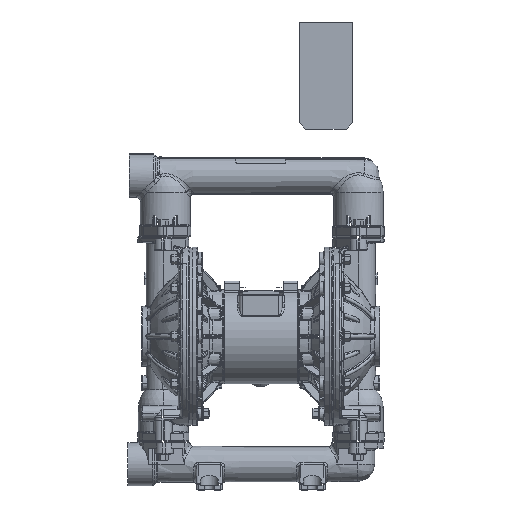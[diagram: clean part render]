
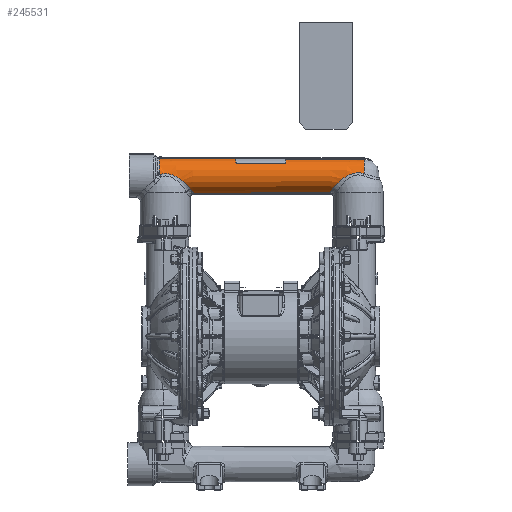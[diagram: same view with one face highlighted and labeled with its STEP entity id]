
A CAD part, top view. The second image highlights one B-rep face of the part: STEP entity #245531.
In plain terms, the highlighted conical face has half-angle 0.267 degrees and reference radius 25.956 mm.
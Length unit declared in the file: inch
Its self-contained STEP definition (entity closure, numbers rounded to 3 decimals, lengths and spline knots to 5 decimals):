
#239250=CARTESIAN_POINT('',(-5.92856,10.37124,
0.28176));
#239252=CARTESIAN_POINT('',(-5.92856,9.52805,
1.03622));
#239290=CARTESIAN_POINT('',(-5.92856,10.37124,
0.28176));
#239291=CARTESIAN_POINT('',(-4.60046,10.36483,
0.2817));
#239292=CARTESIAN_POINT('',(-1.94389,10.352,
0.28158));
#239293=CARTESIAN_POINT('',(2.04197,10.33272,
0.28139));
#239294=CARTESIAN_POINT('',(4.6999,10.31985,
0.28125));
#239295=CARTESIAN_POINT('',(6.02903,10.31341,
0.28118));
#239297=CARTESIAN_POINT('',(6.02903,9.36,0.));
#239298=DIRECTION('',(1.,0.,0.));
#239299=DIRECTION('',(0.,0.959,0.283));
#239300=AXIS2_PLACEMENT_3D('',#239297,#239298,#239299);
#239302=CARTESIAN_POINT('',(-5.87711,9.44721,
1.04589));
#239303=CARTESIAN_POINT('',(-5.87989,9.4502,
1.04566));
#239304=CARTESIAN_POINT('',(-5.88552,9.45617,
1.04516));
#239305=CARTESIAN_POINT('',(-5.89434,9.46518,
1.04433));
#239306=CARTESIAN_POINT('',(-5.90302,9.47451,
1.04339));
#239307=CARTESIAN_POINT('',(-5.91114,9.48417,
1.04232));
#239308=CARTESIAN_POINT('',(-5.91825,9.49428,
1.04111));
#239309=CARTESIAN_POINT('',(-5.92389,9.50489,
1.03971));
#239310=CARTESIAN_POINT('',(-5.92763,9.51607,
1.03811));
#239311=CARTESIAN_POINT('',(-5.92856,9.52399,
1.03688));
#239312=CARTESIAN_POINT('',(-5.92856,9.52805,
1.03622));
#239314=CARTESIAN_POINT('',(-5.92856,9.36,0.));
#239315=DIRECTION('',(-1.,0.,0.));
#239316=DIRECTION('',(0.,0.16,0.987));
#239317=AXIS2_PLACEMENT_3D('',#239314,#239315,#239316);
#239847=CARTESIAN_POINT('',(4.19765,8.59961,
0.65339));
#239848=CARTESIAN_POINT('',(4.17641,8.57281,
0.62235));
#239849=CARTESIAN_POINT('',(4.13707,8.5248,
0.55905));
#239850=CARTESIAN_POINT('',(4.08873,8.4682,
0.46331));
#239851=CARTESIAN_POINT('',(4.05071,8.42494,
0.36827));
#239852=CARTESIAN_POINT('',(4.03153,8.40352,
0.30475));
#239853=CARTESIAN_POINT('',(4.02348,8.39459,
0.27334));
#239872=CARTESIAN_POINT('',(6.02903,9.49634,
0.98462));
#239873=CARTESIAN_POINT('',(5.97292,9.51212,
0.9827));
#239874=CARTESIAN_POINT('',(5.86068,9.53578,
0.97923));
#239875=CARTESIAN_POINT('',(5.69222,9.54742,
0.97777));
#239876=CARTESIAN_POINT('',(5.52324,9.53504,
0.98096));
#239877=CARTESIAN_POINT('',(5.35605,9.49919,
0.98777));
#239878=CARTESIAN_POINT('',(5.18486,9.43848,
0.99578));
#239879=CARTESIAN_POINT('',(5.00308,9.34715,
1.00065));
#239880=CARTESIAN_POINT('',(4.81331,9.22163,
0.99339));
#239881=CARTESIAN_POINT('',(4.6257,9.06725,
0.96203));
#239882=CARTESIAN_POINT('',(4.44874,8.8936,
0.89314));
#239883=CARTESIAN_POINT('',(4.3037,8.73094,
0.78782));
#239884=CARTESIAN_POINT('',(4.22983,8.64022,
0.70041));
#239885=CARTESIAN_POINT('',(4.19765,8.59961,
0.65339));
#239924=CARTESIAN_POINT('',(6.02903,9.49634,
0.98462));
#242031=CARTESIAN_POINT('',(4.02348,8.39459,
0.27334));
#242032=CARTESIAN_POINT('',(3.14228,8.39032,
0.27337));
#242033=CARTESIAN_POINT('',(1.38003,8.3818,
0.27342));
#242034=CARTESIAN_POINT('',(-1.26293,8.36904,
0.2735));
#242035=CARTESIAN_POINT('',(-3.02461,8.36054,
0.27356));
#242036=CARTESIAN_POINT('',(-3.90537,8.35629,
0.27358));
#242238=CARTESIAN_POINT('',(-3.90537,8.35629,
0.27358));
#242239=CARTESIAN_POINT('',(-3.91457,8.36617,
0.30999));
#242240=CARTESIAN_POINT('',(-3.93699,8.39036,
0.3835));
#242241=CARTESIAN_POINT('',(-3.98302,8.44106,
0.49367));
#242242=CARTESIAN_POINT('',(-4.04161,8.50757,
0.60217));
#242243=CARTESIAN_POINT('',(-4.0884,8.56312,
0.67165));
#242244=CARTESIAN_POINT('',(-4.11341,8.59392,
0.70528));
#242246=CARTESIAN_POINT('',(-3.90537,8.35629,
0.27358));
#242555=CARTESIAN_POINT('',(-4.11341,8.59392,
0.70528));
#242556=CARTESIAN_POINT('',(-4.15051,8.63965,
0.75521));
#242557=CARTESIAN_POINT('',(-4.23295,8.73767,
0.84289));
#242558=CARTESIAN_POINT('',(-4.38135,8.89712,
0.93985));
#242559=CARTESIAN_POINT('',(-4.54974,9.05508,
1.00201));
#242560=CARTESIAN_POINT('',(-4.73302,9.19948,
1.03472));
#242561=CARTESIAN_POINT('',(-4.92629,9.32062,
1.04615));
#242562=CARTESIAN_POINT('',(-5.12482,9.41178,
1.04559));
#242563=CARTESIAN_POINT('',(-5.32298,9.46905,
1.04147));
#242564=CARTESIAN_POINT('',(-5.51506,9.49242,
1.03941));
#242565=CARTESIAN_POINT('',(-5.69836,9.4856,
1.04119));
#242566=CARTESIAN_POINT('',(-5.81807,9.46287,
1.04431));
#242567=CARTESIAN_POINT('',(-5.87711,9.44721,
1.04589));
#244661=VERTEX_POINT('',#242555);
#244662=VERTEX_POINT('',#242567);
#244681=VERTEX_POINT('',#239252);
#244692=VERTEX_POINT('',#239924);
#244694=VERTEX_POINT('',#239885);
#244721=VERTEX_POINT('',#242246);
#244723=VERTEX_POINT('',#242031);
#245233=VERTEX_POINT('',#239250);
#245234=VERTEX_POINT('',#239295);
#245507=CARTESIAN_POINT('',(0.05023,9.36,0.));
#245508=DIRECTION('',(-1.,0.,0.));
#245509=DIRECTION('',(0.,-1.,0.));
#245510=AXIS2_PLACEMENT_3D('',#245507,#245508,#245509);
#245511=CONICAL_SURFACE('',#245510,1.02189,0.267);
#245513=ORIENTED_EDGE('',*,*,#245512,.T.);
#245515=ORIENTED_EDGE('',*,*,#245514,.T.);
#245517=ORIENTED_EDGE('',*,*,#245516,.T.);
#245519=ORIENTED_EDGE('',*,*,#245518,.T.);
#245521=ORIENTED_EDGE('',*,*,#245520,.T.);
#245523=ORIENTED_EDGE('',*,*,#245522,.T.);
#245525=ORIENTED_EDGE('',*,*,#245524,.T.);
#245527=ORIENTED_EDGE('',*,*,#245526,.T.);
#245528=ORIENTED_EDGE('',*,*,#245484,.T.);
#245529=EDGE_LOOP('',(#245513,#245515,#245517,#245519,#245521,#245523,#245525,
#245527,#245528));
#245530=FACE_OUTER_BOUND('',#245529,.F.);
#245531=ADVANCED_FACE('',(#245530),#245511,.T.);
#239296=B_SPLINE_CURVE_WITH_KNOTS('',3,(#239290,#239291,#239292,#239293,#239294,
#239295),.UNSPECIFIED.,.F.,.F.,(4,1,1,4),(0.,0.33333,
0.66667,1.),.UNSPECIFIED.);
#239301=CIRCLE('',#239300,0.99401);
#239313=B_SPLINE_CURVE_WITH_KNOTS('',3,(#239302,#239303,#239304,#239305,#239306,
#239307,#239308,#239309,#239310,#239311,#239312),.UNSPECIFIED.,.F.,.F.,(4,1,1,1,
1,1,1,1,4),(0.,0.125,0.25,0.375,0.5,0.625,0.75,0.875,1.),
.UNSPECIFIED.);
#239318=CIRCLE('',#239317,1.04976);
#239854=B_SPLINE_CURVE_WITH_KNOTS('',3,(#239847,#239848,#239849,#239850,#239851,
#239852,#239853),.UNSPECIFIED.,.F.,.F.,(4,1,1,1,4),(0.,0.25,0.5,0.75,
1.),.UNSPECIFIED.);
#239886=B_SPLINE_CURVE_WITH_KNOTS('',3,(#239872,#239873,#239874,#239875,#239876,
#239877,#239878,#239879,#239880,#239881,#239882,#239883,#239884,#239885),
.UNSPECIFIED.,.F.,.F.,(4,1,1,1,1,1,1,1,1,1,1,4),(0.,0.09091,
0.18182,0.27273,0.36364,0.45455,
0.54545,0.63636,0.72727,0.81818,
0.90909,1.),.UNSPECIFIED.);
#242037=B_SPLINE_CURVE_WITH_KNOTS('',3,(#242031,#242032,#242033,#242034,#242035,
#242036),.UNSPECIFIED.,.F.,.F.,(4,1,1,4),(0.,0.33333,
0.66667,1.),.UNSPECIFIED.);
#242245=B_SPLINE_CURVE_WITH_KNOTS('',3,(#242238,#242239,#242240,#242241,#242242,
#242243,#242244),.UNSPECIFIED.,.F.,.F.,(4,1,1,1,4),(0.,0.25,0.5,0.75,
1.),.UNSPECIFIED.);
#242568=B_SPLINE_CURVE_WITH_KNOTS('',3,(#242555,#242556,#242557,#242558,#242559,
#242560,#242561,#242562,#242563,#242564,#242565,#242566,#242567),.UNSPECIFIED.,
.F.,.F.,(4,1,1,1,1,1,1,1,1,1,4),(0.,0.1,0.2,0.3,0.4,0.5,0.6,0.7,
0.8,0.9,1.),.UNSPECIFIED.);
#245484=EDGE_CURVE('',#244681,#245233,#239318,.T.);
#245512=EDGE_CURVE('',#245233,#245234,#239296,.T.);
#245514=EDGE_CURVE('',#245234,#244692,#239301,.T.);
#245516=EDGE_CURVE('',#244692,#244694,#239886,.T.);
#245518=EDGE_CURVE('',#244694,#244723,#239854,.T.);
#245520=EDGE_CURVE('',#244723,#244721,#242037,.T.);
#245522=EDGE_CURVE('',#244721,#244661,#242245,.T.);
#245524=EDGE_CURVE('',#244661,#244662,#242568,.T.);
#245526=EDGE_CURVE('',#244662,#244681,#239313,.T.);
